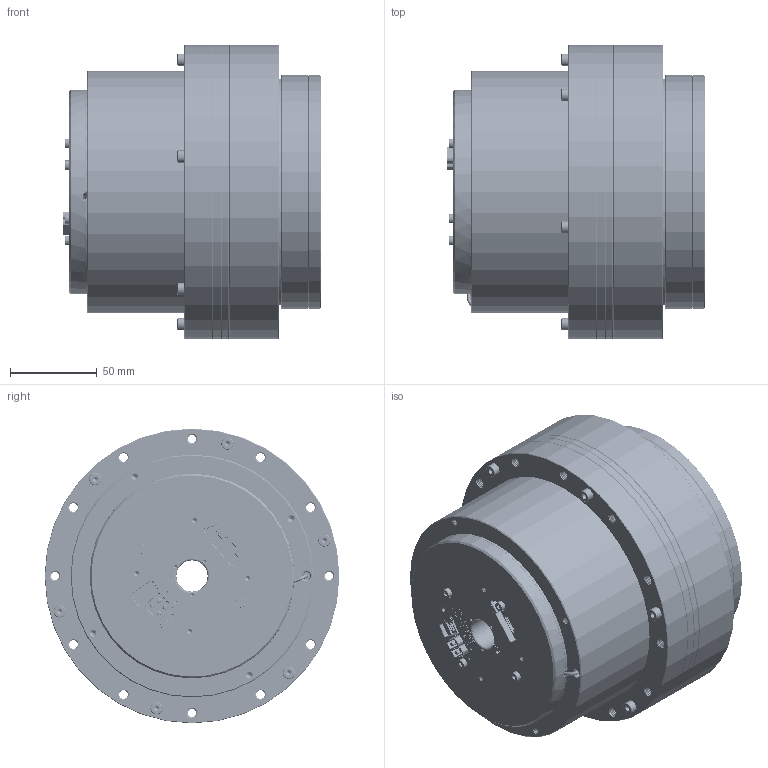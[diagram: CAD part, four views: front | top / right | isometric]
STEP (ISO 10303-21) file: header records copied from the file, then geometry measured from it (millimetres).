
FILE_DESCRIPTION (( 'STEP AP203' ), '1' );
FILE_NAME ('eRob170H｡ﾁ｡ﾁI-XX-18CX_V3_MC2A.DX.XX.step', '2024-05-21T10:23:06', ( 'Windows User' ), ( 'P R C' ), 'SwSTEP 2.0', 'SolidWorks 2021', '' );
FILE_SCHEMA (( 'CONFIG_CONTROL_DESIGN' ));
Length unit declared in the file: millimetre
Products named in the file (1): eRob170H××I-XX-18CX_V3_MC2A.DX.XX
Bounding box: 148.3 x 170 x 170 mm (x, y, z)
Volume: 2472715.6 mm3; surface area: 160236.4 mm2
Topology: 1 solids, 11 shells, 4281 faces, 11564 edges, 7509 vertices
Faces by surface type: plane 2078, cylinder 1543, bspline 438, cone 160, torus 62
Entity records: 251591 total; most frequent: CARTESIAN_POINT 152356, ORIENTED_EDGE 22948, DIRECTION 17718, EDGE_CURVE 11474, VERTEX_POINT 7509, LINE 6986, VECTOR 6986, AXIS2_PLACEMENT_3D 5366
